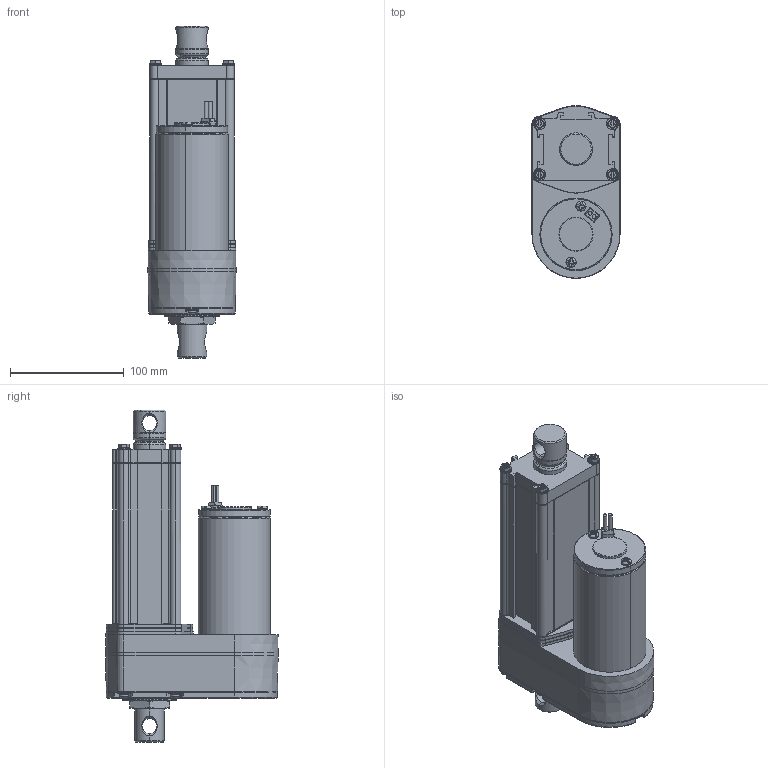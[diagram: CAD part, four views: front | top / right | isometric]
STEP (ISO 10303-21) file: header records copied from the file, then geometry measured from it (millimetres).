
FILE_DESCRIPTION((''),' ');
FILE_NAME('dszy12-100-std.stp',' ',('r'),('r'),' ','ACIS 14.0',' ');
FILE_SCHEMA(('automotive_design'));
Length unit declared in the file: inch
Products named in the file (3): DSZY12-100-STD
Bounding box: 77.3 x 151.8 x 291.5 mm (x, y, z)
Volume: 1540375 mm3; surface area: 191352.4 mm2
Topology: 3 solids, 29 shells, 1844 faces, 4523 edges, 2783 vertices
Faces by surface type: plane 956, cylinder 520, cone 135, torus 110, bspline 107, sphere 16
Entity records: 74305 total; most frequent: CARTESIAN_POINT 17846, ORIENTED_EDGE 8986, DIRECTION 8563, EDGE_CURVE 4493, AXIS2_PLACEMENT_3D 3222, VERTEX_POINT 2783, LINE 2119, VECTOR 2119
